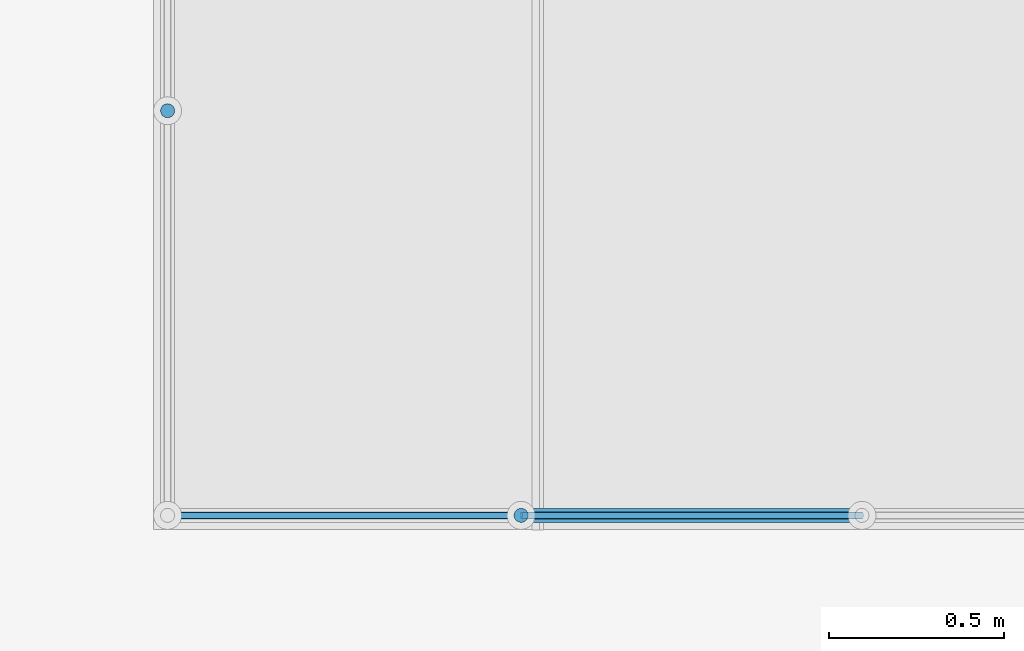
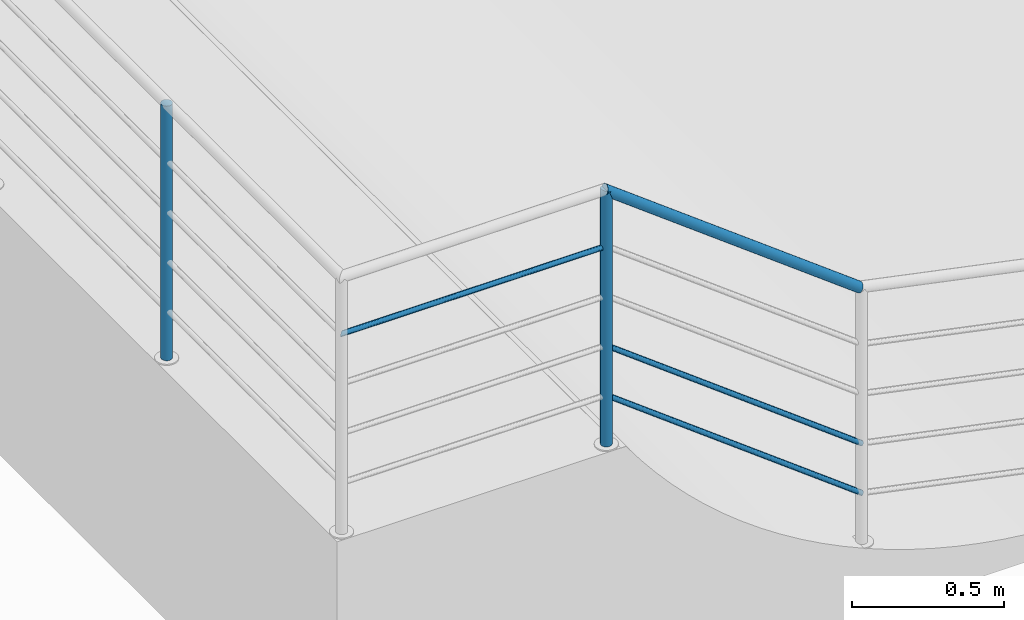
# One storey, part 28 of 237: 6 building element parts, 1 element without a shape of its own.
"""IFC2X3 building model written with IfcOpenShell, lengths in millimetres."""

from ifc_helpers import new_model, entity, si_unit, converted_unit, derived_unit, money_unit, direction, frame, origin_with_axes, place, context, subcontext, project, spatial, faceted_brep, material, type_object, element, aggregate, save


model = new_model("IFC2X3")

# Units and contexts
model_context = context("Model", 3, precision=0.01, world=origin_with_axes(), true_north=direction((0.0, 1.0)))
body_context = subcontext(model_context, "Body", "Model", "MODEL_VIEW")
ifc_project = project(units=[si_unit("LENGTHUNIT", "METRE", prefix="MILLI"), si_unit("AREAUNIT", "SQUARE_METRE"), si_unit("VOLUMEUNIT", "CUBIC_METRE"), converted_unit("PLANEANGLEUNIT", "DEGREE", entity("IfcPlaneAngleMeasure", 0.0174532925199), si_unit("PLANEANGLEUNIT", "RADIAN"), dimensions=[0, 0, 0, 0, 0, 0, 0]), money_unit("USD"), converted_unit("TIMEUNIT", "Year", entity("IfcTimeMeasure", 31556926.0), si_unit("TIMEUNIT", "SECOND"), dimensions=[0, 0, 1, 0, 0, 0, 0]), si_unit("MASSUNIT", "GRAM", prefix="KILO"), si_unit("THERMODYNAMICTEMPERATUREUNIT", "DEGREE_CELSIUS"), si_unit("LUMINOUSINTENSITYUNIT", "LUMEN"), si_unit("ENERGYUNIT", "JOULE", prefix="MEGA"), derived_unit("THERMALCONDUCTANCEUNIT", [(si_unit("POWERUNIT", "WATT"), 1), (si_unit("LENGTHUNIT", "METRE"), -1), (si_unit("THERMODYNAMICTEMPERATUREUNIT", "KELVIN"), -1)]), derived_unit("SPECIFICHEATCAPACITYUNIT", [(si_unit("ENERGYUNIT", "JOULE"), 1), (si_unit("MASSUNIT", "GRAM", prefix="KILO"), -1), (si_unit("THERMODYNAMICTEMPERATUREUNIT", "KELVIN"), -1)]), derived_unit("MASSDENSITYUNIT", [(si_unit("MASSUNIT", "GRAM", prefix="KILO"), 1), (si_unit("VOLUMEUNIT", "CUBIC_METRE"), -1)])], contexts=[model_context])

# Site, building, storey
site_placement = place(None, origin_with_axes())
site = spatial("IfcSite", under=ifc_project, at=site_placement, Name="Local", CompositionType="ELEMENT")
building_placement = place(site_placement, origin_with_axes())
building = spatial("IfcBuilding", under=site, at=building_placement, Name="Construção", CompositionType="ELEMENT")
storey_placement = place(building_placement, origin_with_axes())
storey = spatial("IfcBuildingStorey", under=building, at=storey_placement, Name="Pavimento Térreo", CompositionType="ELEMENT", Elevation=0.0)

# Railing, building element parts
railing_type = type_object("IfcRailingType", Name="Tipo de Guarda-Corpo", PredefinedType="NOTDEFINED")
railing_placement = place(storey_placement, frame((53912.4440926, 33356.4497128, -1263.04952679), z_axis=(0.0, 0.0, 1.0), x_axis=(1.0, 0.0, 0.0)))
railing = element("IfcRailing", 1, at=railing_placement, inside=storey, type_object=railing_type, Name="Guarda-Corpo - 001", PredefinedType="NOTDEFINED")
ifc_material = material(Name="Aço - Inoxidável")
building_element_part_1_placement = place(railing_placement, origin_with_axes())
building_element_part_1 = element("IfcBuildingElementPart", 2, at=building_element_part_1_placement, material=ifc_material, Name="Aço - Inoxidável", context=body_context, shape_type="Brep", body=[
    faceted_brep([(-1805.24406084, -5291.20961394, 910.941330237), (-1801.77109729, -5291.51345888, 910.941330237), (-1801.77109729, -5291.51345888, 1935.94133024), (-1805.24406084, -5291.20961394, 1937.10492348), (-1798.29813374, -5291.20961394, 910.941330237), (-1808.61150016, -5290.30731129, 910.941330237), (-1811.77109729, -5288.83396695, 910.941330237), (-1814.62684948, -5286.83434774, 910.941330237), (-1817.09198615, -5284.36921107, 910.941330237), (-1819.09160537, -5281.51345888, 910.941330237), (-1820.56494971, -5278.35386174, 910.941330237), (-1821.46725235, -5274.98642243, 910.941330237), (-1821.77109729, -5271.51345888, 910.941330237), (-1821.46725235, -5268.04049532, 910.941330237), (-1820.56494971, -5264.67305601, 910.941330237), (-1819.09160537, -5261.51345888, 910.941330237), (-1817.09198615, -5258.65770668, 910.941330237), (-1814.62684948, -5256.19257001, 910.941330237), (-1811.77109729, -5254.1929508, 910.941330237), (-1808.61150016, -5252.71960646, 910.941330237), (-1805.24406084, -5251.81730382, 910.941330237), (-1801.77109729, -5251.51345888, 910.941330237), (-1798.29813374, -5251.81730382, 910.941330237), (-1794.93069442, -5252.71960646, 910.941330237), (-1791.77109729, -5254.1929508, 910.941330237), (-1788.9153451, -5256.19257001, 910.941330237), (-1786.45020843, -5258.65770668, 910.941330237), (-1784.45058922, -5261.51345888, 910.941330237), (-1782.97724488, -5264.67305601, 910.941330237), (-1782.07494223, -5268.04049532, 910.941330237), (-1781.77109729, -5271.51345888, 910.941330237), (-1782.07494223, -5274.98642243, 910.941330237), (-1782.97724488, -5278.35386174, 910.941330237), (-1784.45058922, -5281.51345888, 910.941330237), (-1786.45020843, -5284.36921107, 910.941330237), (-1788.9153451, -5286.83434774, 910.941330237), (-1791.77109729, -5288.83396695, 910.941330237), (-1794.93069442, -5290.30731129, 910.941330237), (-1798.29813374, -5291.20961394, 1934.77773699), (-1821.46725235, -5268.04049532, 1942.54039545), (-1821.77109729, -5271.51345888, 1942.64219667), (-1821.46725235, -5274.98642243, 1942.54039545), (-1820.56494971, -5278.35386174, 1942.23808497), (-1819.09160537, -5281.51345888, 1941.74445079), (-1817.09198615, -5284.36921107, 1941.07449173), (-1814.62684948, -5286.83434774, 1940.24856415), (-1811.77109729, -5288.83396695, 1939.29176345), (-1808.61150016, -5290.30731129, 1938.23316153), (-1794.93069442, -5290.30731129, 1933.64949894), (-1791.77109729, -5288.83396695, 1932.59089702), (-1788.9153451, -5286.83434774, 1931.63409632), (-1786.45020843, -5284.36921107, 1930.80816874), (-1784.45058922, -5281.51345888, 1930.13820968), (-1782.97724488, -5278.35386174, 1929.6445755), (-1782.07494223, -5274.98642243, 1929.34226502), (-1781.77109729, -5271.51345888, 1929.24046381), (-1782.07494223, -5268.04049532, 1929.34226502), (-1782.97724488, -5264.67305601, 1929.6445755), (-1784.45058922, -5261.51345888, 1930.13820968), (-1786.45020843, -5258.65770668, 1930.80816874), (-1788.9153451, -5256.19257001, 1931.63409632), (-1791.77109729, -5254.1929508, 1932.59089702), (-1794.93069442, -5252.71960646, 1933.64949894), (-1798.29813374, -5251.81730382, 1934.77773699), (-1801.77109729, -5251.51345888, 1935.94133024), (-1805.24406084, -5251.81730382, 1937.10492348), (-1808.61150016, -5252.71960646, 1938.23316153), (-1811.77109729, -5254.1929508, 1939.29176345), (-1814.62684948, -5256.19257001, 1940.24856415), (-1817.09198615, -5258.65770668, 1941.07449173), (-1819.09160537, -5261.51345888, 1941.74445079), (-1820.56494971, -5264.67305601, 1942.23808497)], [[[0, 1, 2, 3]], [[4, 1, 0, 5, 6, 7, 8, 9, 10, 11, 12, 13, 14, 15, 16, 17, 18, 19, 20, 21, 22, 23, 24, 25, 26, 27, 28, 29, 30, 31, 32, 33, 34, 35, 36, 37]], [[1, 4, 38, 2]], [[39, 40, 41, 42, 43, 44, 45, 46, 47, 3, 2, 38, 48, 49, 50, 51, 52, 53, 54, 55, 56, 57, 58, 59, 60, 61, 62, 63, 64, 65, 66, 67, 68, 69, 70, 71]], [[5, 0, 3, 47]], [[6, 5, 47, 46]], [[7, 6, 46, 45]], [[8, 7, 45, 44]], [[9, 8, 44, 43]], [[10, 9, 43, 42]], [[11, 10, 42, 41]], [[12, 11, 41, 40]], [[13, 12, 40, 39]], [[14, 13, 39, 71]], [[15, 14, 71, 70]], [[16, 15, 70, 69]], [[17, 16, 69, 68]], [[18, 17, 68, 67]], [[19, 18, 67, 66]], [[20, 19, 66, 65]], [[21, 20, 65, 64]], [[22, 21, 64, 63]], [[23, 22, 63, 62]], [[24, 23, 62, 61]], [[25, 24, 61, 60]], [[26, 25, 60, 59]], [[27, 26, 59, 58]], [[28, 27, 58, 57]], [[29, 28, 57, 56]], [[30, 29, 56, 55]], [[31, 30, 55, 54]], [[32, 31, 54, 53]], [[33, 32, 53, 52]], [[34, 33, 52, 51]], [[35, 34, 51, 50]], [[36, 35, 50, 49]], [[37, 36, 49, 48]], [[4, 37, 48, 38]]]),
])
building_element_part_2_placement = place(railing_placement, origin_with_axes())
building_element_part_2 = element("IfcBuildingElementPart", 3, at=building_element_part_2_placement, material=ifc_material, Name="Aço - Inoxidável", context=body_context, shape_type="Brep", body=[
    faceted_brep([(-2829.69615506, -4114.04632629, 910.941330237), (-2830.0, -4117.51928985, 910.941330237), (-2830.0, -4117.51928985, 1935.94133024), (-2829.69615506, -4114.04632629, 1935.94133024), (-2829.69615506, -4120.9922534, 910.941330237), (-2828.79385242, -4110.67888698, 910.941330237), (-2827.32050808, -4107.51928985, 910.941330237), (-2825.32088886, -4104.66353765, 910.941330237), (-2822.85575219, -4102.19840098, 910.941330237), (-2820.0, -4100.19878177, 910.941330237), (-2816.84040287, -4098.72543743, 910.941330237), (-2813.47296355, -4097.82313479, 910.941330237), (-2810.0, -4097.51928985, 910.941330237), (-2806.52703645, -4097.82313479, 910.941330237), (-2803.15959713, -4098.72543743, 910.941330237), (-2800.0, -4100.19878177, 910.941330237), (-2797.14424781, -4102.19840098, 910.941330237), (-2794.67911114, -4104.66353765, 910.941330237), (-2792.67949192, -4107.51928985, 910.941330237), (-2791.20614758, -4110.67888698, 910.941330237), (-2790.30384494, -4114.04632629, 910.941330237), (-2790.0, -4117.51928985, 910.941330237), (-2790.30384494, -4120.9922534, 910.941330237), (-2791.20614758, -4124.35969271, 910.941330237), (-2792.67949192, -4127.51928985, 910.941330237), (-2794.67911114, -4130.37504204, 910.941330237), (-2797.14424781, -4132.84017871, 910.941330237), (-2800.0, -4134.83979792, 910.941330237), (-2803.15959713, -4136.31314226, 910.941330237), (-2806.52703645, -4137.21544491, 910.941330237), (-2810.0, -4137.51928985, 910.941330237), (-2813.47296355, -4137.21544491, 910.941330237), (-2816.84040287, -4136.31314226, 910.941330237), (-2820.0, -4134.83979792, 910.941330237), (-2822.85575219, -4132.84017871, 910.941330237), (-2825.32088886, -4130.37504204, 910.941330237), (-2827.32050808, -4127.51928985, 910.941330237), (-2828.79385242, -4124.35969271, 910.941330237), (-2829.69615506, -4120.9922534, 1935.94133024), (-2806.52703645, -4097.82313479, 1935.94133024), (-2810.0, -4097.51928985, 1935.94133024), (-2813.47296355, -4097.82313479, 1935.94133024), (-2816.84040287, -4098.72543743, 1935.94133024), (-2820.0, -4100.19878177, 1935.94133024), (-2822.85575219, -4102.19840098, 1935.94133024), (-2825.32088886, -4104.66353765, 1935.94133024), (-2827.32050808, -4107.51928985, 1935.94133024), (-2828.79385242, -4110.67888698, 1935.94133024), (-2828.79385242, -4124.35969271, 1935.94133024), (-2827.32050808, -4127.51928985, 1935.94133024), (-2825.32088886, -4130.37504204, 1935.94133024), (-2822.85575219, -4132.84017871, 1935.94133024), (-2820.0, -4134.83979792, 1935.94133024), (-2816.84040287, -4136.31314226, 1935.94133024), (-2813.47296355, -4137.21544491, 1935.94133024), (-2810.0, -4137.51928985, 1935.94133024), (-2806.52703645, -4137.21544491, 1935.94133024), (-2803.15959713, -4136.31314226, 1935.94133024), (-2800.0, -4134.83979792, 1935.94133024), (-2797.14424781, -4132.84017871, 1935.94133024), (-2794.67911114, -4130.37504204, 1935.94133024), (-2792.67949192, -4127.51928985, 1935.94133024), (-2791.20614758, -4124.35969271, 1935.94133024), (-2790.30384494, -4120.9922534, 1935.94133024), (-2790.0, -4117.51928985, 1935.94133024), (-2790.30384494, -4114.04632629, 1935.94133024), (-2791.20614758, -4110.67888698, 1935.94133024), (-2792.67949192, -4107.51928985, 1935.94133024), (-2794.67911114, -4104.66353765, 1935.94133024), (-2797.14424781, -4102.19840098, 1935.94133024), (-2800.0, -4100.19878177, 1935.94133024), (-2803.15959713, -4098.72543743, 1935.94133024)], [[[0, 1, 2, 3]], [[4, 1, 0, 5, 6, 7, 8, 9, 10, 11, 12, 13, 14, 15, 16, 17, 18, 19, 20, 21, 22, 23, 24, 25, 26, 27, 28, 29, 30, 31, 32, 33, 34, 35, 36, 37]], [[1, 4, 38, 2]], [[39, 40, 41, 42, 43, 44, 45, 46, 47, 3, 2, 38, 48, 49, 50, 51, 52, 53, 54, 55, 56, 57, 58, 59, 60, 61, 62, 63, 64, 65, 66, 67, 68, 69, 70, 71]], [[5, 0, 3, 47]], [[6, 5, 47, 46]], [[7, 6, 46, 45]], [[8, 7, 45, 44]], [[9, 8, 44, 43]], [[10, 9, 43, 42]], [[11, 10, 42, 41]], [[12, 11, 41, 40]], [[13, 12, 40, 39]], [[14, 13, 39, 71]], [[15, 14, 71, 70]], [[16, 15, 70, 69]], [[17, 16, 69, 68]], [[18, 17, 68, 67]], [[19, 18, 67, 66]], [[20, 19, 66, 65]], [[21, 20, 65, 64]], [[22, 21, 64, 63]], [[23, 22, 63, 62]], [[24, 23, 62, 61]], [[25, 24, 61, 60]], [[26, 25, 60, 59]], [[27, 26, 59, 58]], [[28, 27, 58, 57]], [[29, 28, 57, 56]], [[30, 29, 56, 55]], [[31, 30, 55, 54]], [[32, 31, 54, 53]], [[33, 32, 53, 52]], [[34, 33, 52, 51]], [[35, 34, 51, 50]], [[36, 35, 50, 49]], [[37, 36, 49, 48]], [[4, 37, 48, 38]]]),
])
building_element_part_3_placement = place(railing_placement, origin_with_axes())
building_element_part_3 = element("IfcBuildingElementPart", 4, at=building_element_part_3_placement, material=ifc_material, Name="Aço - Inoxidável", context=body_context, shape_type="Brep", body=[
    faceted_brep([(-2800.0, -5261.51345888, 1705.94133024), (-2800.15192247, -5261.66538135, 1707.67781201), (-1801.18930067, -5261.66538135, 1707.67781201), (-1801.77109729, -5261.51345888, 1705.94133024), (-2800.15192247, -5261.66538135, 1704.20484846), (-2800.60307379, -5262.11653267, 1702.5211288), (-2801.33974596, -5262.85320484, 1700.94133024), (-2802.33955557, -5263.85301445, 1699.51345414), (-2803.5721239, -5265.08558278, 1698.28088581), (-2805.0, -5266.51345888, 1697.2810762), (-2806.57979857, -5268.09325744, 1696.54440403), (-2808.26351822, -5269.7769771, 1696.09325271), (-2810.0, -5271.51345888, 1695.94133024), (-2811.73648178, -5273.24994065, 1696.09325271), (-2813.42020143, -5274.93366031, 1696.54440403), (-2815.0, -5276.51345888, 1697.2810762), (-2816.4278761, -5277.94133497, 1698.28088581), (-2817.66044443, -5279.17390331, 1699.51345414), (-2818.66025404, -5280.17371292, 1700.94133024), (-2819.39692621, -5280.91038509, 1702.5211288), (-2819.84807753, -5281.36153641, 1704.20484846), (-2820.0, -5281.51345888, 1705.94133024), (-2819.84807753, -5281.36153641, 1707.67781201), (-2819.39692621, -5280.91038509, 1709.36153167), (-2818.66025404, -5280.17371292, 1710.94133024), (-2817.66044443, -5279.17390331, 1712.36920633), (-2816.4278761, -5277.94133497, 1713.60177467), (-2815.0, -5276.51345888, 1714.60158427), (-2813.42020143, -5274.93366031, 1715.33825644), (-2811.73648178, -5273.24994065, 1715.78940777), (-2810.0, -5271.51345888, 1715.94133024), (-2808.26351822, -5269.7769771, 1715.78940777), (-2806.57979857, -5268.09325744, 1715.33825644), (-2805.0, -5266.51345888, 1714.60158427), (-2803.5721239, -5265.08558278, 1713.60177467), (-2802.33955557, -5263.85301445, 1712.36920633), (-2801.33974596, -5262.85320484, 1710.94133024), (-2800.60307379, -5262.11653267, 1709.36153167), (-1800.62518164, -5262.11653267, 1709.36153167), (-1800.09588068, -5262.85320484, 1710.94133024), (-1799.61748033, -5263.85301445, 1712.36920633), (-1799.20451654, -5265.08558278, 1713.60177467), (-1798.86953701, -5266.51345888, 1714.60158427), (-1798.62271992, -5268.09325744, 1715.33825644), (-1798.47156468, -5269.7769771, 1715.78940777), (-1798.42066408, -5271.51345888, 1715.94133024), (-1798.47156468, -5273.24994065, 1715.78940777), (-1798.62271992, -5274.93366031, 1715.33825644), (-1798.86953701, -5276.51345888, 1714.60158427), (-1799.20451654, -5277.94133497, 1713.60177467), (-1799.61748033, -5279.17390331, 1712.36920633), (-1800.09588068, -5280.17371292, 1710.94133024), (-1800.62518164, -5280.91038509, 1709.36153167), (-1801.18930067, -5281.36153641, 1707.67781201), (-1801.77109729, -5281.51345888, 1705.94133024), (-1802.35289391, -5281.36153641, 1704.20484846), (-1802.91701294, -5280.91038509, 1702.5211288), (-1803.4463139, -5280.17371292, 1700.94133024), (-1803.92471425, -5279.17390331, 1699.51345414), (-1804.33767804, -5277.94133497, 1698.28088581), (-1804.67265757, -5276.51345888, 1697.2810762), (-1804.91947466, -5274.93366031, 1696.54440403), (-1805.0706299, -5273.24994065, 1696.09325271), (-1805.12153051, -5271.51345888, 1695.94133024), (-1805.0706299, -5269.7769771, 1696.09325271), (-1804.91947466, -5268.09325744, 1696.54440403), (-1804.67265757, -5266.51345888, 1697.2810762), (-1804.33767804, -5265.08558278, 1698.28088581), (-1803.92471425, -5263.85301445, 1699.51345414), (-1803.4463139, -5262.85320484, 1700.94133024), (-1802.91701294, -5262.11653267, 1702.5211288), (-1802.35289391, -5261.66538135, 1704.20484846)], [[[0, 1, 2, 3]], [[0, 4, 5, 6, 7, 8, 9, 10, 11, 12, 13, 14, 15, 16, 17, 18, 19, 20, 21, 22, 23, 24, 25, 26, 27, 28, 29, 30, 31, 32, 33, 34, 35, 36, 37, 1]], [[1, 37, 38, 2]], [[3, 2, 38, 39, 40, 41, 42, 43, 44, 45, 46, 47, 48, 49, 50, 51, 52, 53, 54, 55, 56, 57, 58, 59, 60, 61, 62, 63, 64, 65, 66, 67, 68, 69, 70, 71]], [[4, 0, 3, 71]], [[5, 4, 71, 70]], [[6, 5, 70, 69]], [[7, 6, 69, 68]], [[8, 7, 68, 67]], [[9, 8, 67, 66]], [[10, 9, 66, 65]], [[11, 10, 65, 64]], [[12, 11, 64, 63]], [[13, 12, 63, 62]], [[14, 13, 62, 61]], [[15, 14, 61, 60]], [[16, 15, 60, 59]], [[17, 16, 59, 58]], [[18, 17, 58, 57]], [[19, 18, 57, 56]], [[20, 19, 56, 55]], [[21, 20, 55, 54]], [[22, 21, 54, 53]], [[23, 22, 53, 52]], [[24, 23, 52, 51]], [[25, 24, 51, 50]], [[26, 25, 50, 49]], [[27, 26, 49, 48]], [[28, 27, 48, 47]], [[29, 28, 47, 46]], [[30, 29, 46, 45]], [[31, 30, 45, 44]], [[32, 31, 44, 43]], [[33, 32, 43, 42]], [[34, 33, 42, 41]], [[35, 34, 41, 40]], [[36, 35, 40, 39]], [[37, 36, 39, 38]]]),
])
building_element_part_4_placement = place(railing_placement, origin_with_axes())
building_element_part_4 = element("IfcBuildingElementPart", 5, at=building_element_part_4_placement, material=ifc_material, Name="Aço - Inoxidável", context=body_context, shape_type="Brep", body=[
    faceted_brep([(-1808.47196372, -5251.51345888, 1935.94133024), (-1807.30837048, -5251.81730382, 1939.41429379), (-836.664998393, -5251.81730382, 1206.75520132), (-838.134613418, -5251.51345888, 1203.51322851), (-1809.63555697, -5251.81730382, 1932.46836668), (-1810.76379502, -5252.71960646, 1929.10092737), (-1811.82239694, -5254.1929508, 1925.94133024), (-1812.77919764, -5256.19257001, 1923.08557804), (-1813.60512521, -5258.65770668, 1920.62044137), (-1814.27508428, -5261.51345888, 1918.62082216), (-1814.76871846, -5264.67305601, 1917.14747782), (-1815.07102893, -5268.04049532, 1916.24517518), (-1815.17283015, -5271.51345888, 1915.94133024), (-1815.07102893, -5274.98642243, 1916.24517518), (-1814.76871846, -5278.35386174, 1917.14747782), (-1814.27508428, -5281.51345888, 1918.62082216), (-1813.60512521, -5284.36921107, 1920.62044137), (-1812.77919764, -5286.83434774, 1923.08557804), (-1811.82239694, -5288.83396695, 1925.94133024), (-1810.76379502, -5290.30731129, 1929.10092737), (-1809.63555697, -5291.20961394, 1932.46836668), (-1808.47196372, -5291.51345888, 1935.94133024), (-1807.30837048, -5291.20961394, 1939.41429379), (-1806.18013242, -5290.30731129, 1942.7817331), (-1805.12153051, -5288.83396695, 1945.94133024), (-1804.16472981, -5286.83434774, 1948.79708243), (-1803.33880223, -5284.36921107, 1951.2622191), (-1802.66884317, -5281.51345888, 1953.26183831), (-1802.17520898, -5278.35386174, 1954.73518265), (-1801.87289851, -5274.98642243, 1955.6374853), (-1801.77109729, -5271.51345888, 1955.94133024), (-1801.87289851, -5268.04049532, 1955.6374853), (-1802.17520898, -5264.67305601, 1954.73518265), (-1802.66884317, -5261.51345888, 1953.26183831), (-1803.33880223, -5258.65770668, 1951.2622191), (-1804.16472981, -5256.19257001, 1948.79708243), (-1805.12153051, -5254.1929508, 1945.94133024), (-1806.18013242, -5252.71960646, 1942.7817331), (-835.240036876, -5252.71960646, 1209.89866842), (-833.903025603, -5254.1929508, 1212.84811716), (-832.694588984, -5256.19257001, 1215.51393003), (-831.651444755, -5258.65770668, 1217.81510766), (-830.805288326, -5261.51345888, 1219.68172993), (-830.18182973, -5264.67305601, 1221.05708046), (-829.800012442, -5268.04049532, 1221.89936993), (-829.671437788, -5271.51345888, 1222.1830058), (-829.800012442, -5274.98642243, 1221.89936993), (-830.18182973, -5278.35386174, 1221.05708046), (-830.805288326, -5281.51345888, 1219.68172993), (-831.651444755, -5284.36921107, 1217.81510766), (-832.694588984, -5286.83434774, 1215.51393003), (-833.903025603, -5288.83396695, 1212.84811716), (-835.240036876, -5290.30731129, 1209.89866842), (-836.664998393, -5291.20961394, 1206.75520132), (-838.134613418, -5291.51345888, 1203.51322851), (-839.604228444, -5291.20961394, 1200.27125571), (-841.029189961, -5290.30731129, 1197.12778861), (-842.366201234, -5288.83396695, 1194.17833987), (-843.574637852, -5286.83434774, 1191.512527), (-844.617782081, -5284.36921107, 1189.21134937), (-845.463938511, -5281.51345888, 1187.3447271), (-846.087397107, -5278.35386174, 1185.96937657), (-846.469214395, -5274.98642243, 1185.12708709), (-846.597789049, -5271.51345888, 1184.84345123), (-846.469214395, -5268.04049532, 1185.12708709), (-846.087397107, -5264.67305601, 1185.96937657), (-845.463938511, -5261.51345888, 1187.3447271), (-844.617782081, -5258.65770668, 1189.21134937), (-843.574637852, -5256.19257001, 1191.512527), (-842.366201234, -5254.1929508, 1194.17833987), (-841.029189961, -5252.71960646, 1197.12778861), (-839.604228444, -5251.81730382, 1200.27125571)], [[[0, 1, 2, 3]], [[0, 4, 5, 6, 7, 8, 9, 10, 11, 12, 13, 14, 15, 16, 17, 18, 19, 20, 21, 22, 23, 24, 25, 26, 27, 28, 29, 30, 31, 32, 33, 34, 35, 36, 37, 1]], [[1, 37, 38, 2]], [[3, 2, 38, 39, 40, 41, 42, 43, 44, 45, 46, 47, 48, 49, 50, 51, 52, 53, 54, 55, 56, 57, 58, 59, 60, 61, 62, 63, 64, 65, 66, 67, 68, 69, 70, 71]], [[4, 0, 3, 71]], [[5, 4, 71, 70]], [[6, 5, 70, 69]], [[7, 6, 69, 68]], [[8, 7, 68, 67]], [[9, 8, 67, 66]], [[10, 9, 66, 65]], [[11, 10, 65, 64]], [[12, 11, 64, 63]], [[13, 12, 63, 62]], [[14, 13, 62, 61]], [[15, 14, 61, 60]], [[16, 15, 60, 59]], [[17, 16, 59, 58]], [[18, 17, 58, 57]], [[19, 18, 57, 56]], [[20, 19, 56, 55]], [[21, 20, 55, 54]], [[22, 21, 54, 53]], [[23, 22, 53, 52]], [[24, 23, 52, 51]], [[25, 24, 51, 50]], [[26, 25, 50, 49]], [[27, 26, 49, 48]], [[28, 27, 48, 47]], [[29, 28, 47, 46]], [[30, 29, 46, 45]], [[31, 30, 45, 44]], [[32, 31, 44, 43]], [[33, 32, 43, 42]], [[34, 33, 42, 41]], [[35, 34, 41, 40]], [[36, 35, 40, 39]], [[37, 36, 39, 38]]]),
])
building_element_part_5_placement = place(railing_placement, origin_with_axes())
building_element_part_5 = element("IfcBuildingElementPart", 6, at=building_element_part_5_placement, material=ifc_material, Name="Aço - Inoxidável", context=body_context, shape_type="Brep", body=[
    faceted_brep([(-1801.77109729, -5261.51345888, 1105.94133024), (-1801.18930067, -5261.66538135, 1107.67781201), (-828.936630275, -5261.66538135, 373.803992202), (-829.671437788, -5261.51345888, 372.183005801), (-1802.35289391, -5261.66538135, 1104.20484846), (-1802.91701294, -5262.11653267, 1102.5211288), (-1803.4463139, -5262.85320484, 1100.94133024), (-1803.92471425, -5263.85301445, 1099.51345414), (-1804.33767804, -5265.08558278, 1098.28088581), (-1804.67265757, -5266.51345888, 1097.2810762), (-1804.91947466, -5268.09325744, 1096.54440403), (-1805.0706299, -5269.7769771, 1096.09325271), (-1805.12153051, -5271.51345888, 1095.94133024), (-1805.0706299, -5273.24994065, 1096.09325271), (-1804.91947466, -5274.93366031, 1096.54440403), (-1804.67265757, -5276.51345888, 1097.2810762), (-1804.33767804, -5277.94133497, 1098.28088581), (-1803.92471425, -5279.17390331, 1099.51345414), (-1803.4463139, -5280.17371292, 1100.94133024), (-1802.91701294, -5280.91038509, 1102.5211288), (-1802.35289391, -5281.36153641, 1104.20484846), (-1801.77109729, -5281.51345888, 1105.94133024), (-1801.18930067, -5281.36153641, 1107.67781201), (-1800.62518164, -5280.91038509, 1109.36153167), (-1800.09588068, -5280.17371292, 1110.94133024), (-1799.61748033, -5279.17390331, 1112.36920633), (-1799.20451654, -5277.94133497, 1113.60177467), (-1798.86953701, -5276.51345888, 1114.60158427), (-1798.62271992, -5274.93366031, 1115.33825644), (-1798.47156468, -5273.24994065, 1115.78940777), (-1798.42066408, -5271.51345888, 1115.94133024), (-1798.47156468, -5269.7769771, 1115.78940777), (-1798.62271992, -5268.09325744, 1115.33825644), (-1798.86953701, -5266.51345888, 1114.60158427), (-1799.20451654, -5265.08558278, 1113.60177467), (-1799.61748033, -5263.85301445, 1112.36920633), (-1800.09588068, -5262.85320484, 1110.94133024), (-1800.62518164, -5262.11653267, 1109.36153167), (-828.224149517, -5262.11653267, 375.375725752), (-827.55564388, -5262.85320484, 376.850450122), (-826.951425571, -5263.85301445, 378.183356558), (-826.429853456, -5265.08558278, 379.333945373), (-826.006775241, -5266.51345888, 380.267256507), (-825.695045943, -5268.09325744, 380.954931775), (-825.5041373, -5269.7769771, 381.37607651), (-825.439849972, -5271.51345888, 381.517894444), (-825.5041373, -5273.24994065, 381.37607651), (-825.695045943, -5274.93366031, 380.954931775), (-826.006775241, -5276.51345888, 380.267256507), (-826.429853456, -5277.94133497, 379.333945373), (-826.951425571, -5279.17390331, 378.183356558), (-827.55564388, -5280.17371292, 376.850450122), (-828.224149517, -5280.91038509, 375.375725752), (-828.936630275, -5281.36153641, 373.803992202), (-829.671437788, -5281.51345888, 372.183005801), (-830.406245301, -5281.36153641, 370.562019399), (-831.118726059, -5280.91038509, 368.990285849), (-831.787231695, -5280.17371292, 367.515561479), (-832.391450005, -5279.17390331, 366.182655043), (-832.913022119, -5277.94133497, 365.032066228), (-833.336100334, -5276.51345888, 364.098755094), (-833.647829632, -5274.93366031, 363.411079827), (-833.838738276, -5273.24994065, 362.989935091), (-833.903025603, -5271.51345888, 362.848117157), (-833.838738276, -5269.7769771, 362.989935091), (-833.647829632, -5268.09325744, 363.411079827), (-833.336100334, -5266.51345888, 364.098755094), (-832.913022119, -5265.08558278, 365.032066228), (-832.391450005, -5263.85301445, 366.182655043), (-831.787231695, -5262.85320484, 367.515561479), (-831.118726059, -5262.11653267, 368.990285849), (-830.406245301, -5261.66538135, 370.562019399)], [[[0, 1, 2, 3]], [[0, 4, 5, 6, 7, 8, 9, 10, 11, 12, 13, 14, 15, 16, 17, 18, 19, 20, 21, 22, 23, 24, 25, 26, 27, 28, 29, 30, 31, 32, 33, 34, 35, 36, 37, 1]], [[1, 37, 38, 2]], [[3, 2, 38, 39, 40, 41, 42, 43, 44, 45, 46, 47, 48, 49, 50, 51, 52, 53, 54, 55, 56, 57, 58, 59, 60, 61, 62, 63, 64, 65, 66, 67, 68, 69, 70, 71]], [[4, 0, 3, 71]], [[5, 4, 71, 70]], [[6, 5, 70, 69]], [[7, 6, 69, 68]], [[8, 7, 68, 67]], [[9, 8, 67, 66]], [[10, 9, 66, 65]], [[11, 10, 65, 64]], [[12, 11, 64, 63]], [[13, 12, 63, 62]], [[14, 13, 62, 61]], [[15, 14, 61, 60]], [[16, 15, 60, 59]], [[17, 16, 59, 58]], [[18, 17, 58, 57]], [[19, 18, 57, 56]], [[20, 19, 56, 55]], [[21, 20, 55, 54]], [[22, 21, 54, 53]], [[23, 22, 53, 52]], [[24, 23, 52, 51]], [[25, 24, 51, 50]], [[26, 25, 50, 49]], [[27, 26, 49, 48]], [[28, 27, 48, 47]], [[29, 28, 47, 46]], [[30, 29, 46, 45]], [[31, 30, 45, 44]], [[32, 31, 44, 43]], [[33, 32, 43, 42]], [[34, 33, 42, 41]], [[35, 34, 41, 40]], [[36, 35, 40, 39]], [[37, 36, 39, 38]]]),
])
building_element_part_6_placement = place(railing_placement, origin_with_axes())
building_element_part_6 = element("IfcBuildingElementPart", 7, at=building_element_part_6_placement, material=ifc_material, Name="Aço - Inoxidável", context=body_context, shape_type="Brep", body=[
    faceted_brep([(-1801.77109729, -5261.51345888, 1305.94133024), (-1801.18930067, -5261.66538135, 1307.67781201), (-828.936630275, -5261.66538135, 573.803992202), (-829.671437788, -5261.51345888, 572.183005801), (-1802.35289391, -5261.66538135, 1304.20484846), (-1802.91701294, -5262.11653267, 1302.5211288), (-1803.4463139, -5262.85320484, 1300.94133024), (-1803.92471425, -5263.85301445, 1299.51345414), (-1804.33767804, -5265.08558278, 1298.28088581), (-1804.67265757, -5266.51345888, 1297.2810762), (-1804.91947466, -5268.09325744, 1296.54440403), (-1805.0706299, -5269.7769771, 1296.09325271), (-1805.12153051, -5271.51345888, 1295.94133024), (-1805.0706299, -5273.24994065, 1296.09325271), (-1804.91947466, -5274.93366031, 1296.54440403), (-1804.67265757, -5276.51345888, 1297.2810762), (-1804.33767804, -5277.94133497, 1298.28088581), (-1803.92471425, -5279.17390331, 1299.51345414), (-1803.4463139, -5280.17371292, 1300.94133024), (-1802.91701294, -5280.91038509, 1302.5211288), (-1802.35289391, -5281.36153641, 1304.20484846), (-1801.77109729, -5281.51345888, 1305.94133024), (-1801.18930067, -5281.36153641, 1307.67781201), (-1800.62518164, -5280.91038509, 1309.36153167), (-1800.09588068, -5280.17371292, 1310.94133024), (-1799.61748033, -5279.17390331, 1312.36920633), (-1799.20451654, -5277.94133497, 1313.60177467), (-1798.86953701, -5276.51345888, 1314.60158427), (-1798.62271992, -5274.93366031, 1315.33825644), (-1798.47156468, -5273.24994065, 1315.78940777), (-1798.42066408, -5271.51345888, 1315.94133024), (-1798.47156468, -5269.7769771, 1315.78940777), (-1798.62271992, -5268.09325744, 1315.33825644), (-1798.86953701, -5266.51345888, 1314.60158427), (-1799.20451654, -5265.08558278, 1313.60177467), (-1799.61748033, -5263.85301445, 1312.36920633), (-1800.09588068, -5262.85320484, 1310.94133024), (-1800.62518164, -5262.11653267, 1309.36153167), (-828.224149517, -5262.11653267, 575.375725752), (-827.55564388, -5262.85320484, 576.850450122), (-826.951425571, -5263.85301445, 578.183356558), (-826.429853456, -5265.08558278, 579.333945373), (-826.006775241, -5266.51345888, 580.267256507), (-825.695045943, -5268.09325744, 580.954931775), (-825.5041373, -5269.7769771, 581.37607651), (-825.439849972, -5271.51345888, 581.517894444), (-825.5041373, -5273.24994065, 581.37607651), (-825.695045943, -5274.93366031, 580.954931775), (-826.006775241, -5276.51345888, 580.267256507), (-826.429853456, -5277.94133497, 579.333945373), (-826.951425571, -5279.17390331, 578.183356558), (-827.55564388, -5280.17371292, 576.850450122), (-828.224149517, -5280.91038509, 575.375725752), (-828.936630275, -5281.36153641, 573.803992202), (-829.671437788, -5281.51345888, 572.183005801), (-830.406245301, -5281.36153641, 570.562019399), (-831.118726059, -5280.91038509, 568.990285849), (-831.787231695, -5280.17371292, 567.515561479), (-832.391450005, -5279.17390331, 566.182655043), (-832.913022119, -5277.94133497, 565.032066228), (-833.336100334, -5276.51345888, 564.098755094), (-833.647829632, -5274.93366031, 563.411079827), (-833.838738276, -5273.24994065, 562.989935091), (-833.903025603, -5271.51345888, 562.848117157), (-833.838738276, -5269.7769771, 562.989935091), (-833.647829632, -5268.09325744, 563.411079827), (-833.336100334, -5266.51345888, 564.098755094), (-832.913022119, -5265.08558278, 565.032066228), (-832.391450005, -5263.85301445, 566.182655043), (-831.787231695, -5262.85320484, 567.515561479), (-831.118726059, -5262.11653267, 568.990285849), (-830.406245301, -5261.66538135, 570.562019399)], [[[0, 1, 2, 3]], [[0, 4, 5, 6, 7, 8, 9, 10, 11, 12, 13, 14, 15, 16, 17, 18, 19, 20, 21, 22, 23, 24, 25, 26, 27, 28, 29, 30, 31, 32, 33, 34, 35, 36, 37, 1]], [[1, 37, 38, 2]], [[3, 2, 38, 39, 40, 41, 42, 43, 44, 45, 46, 47, 48, 49, 50, 51, 52, 53, 54, 55, 56, 57, 58, 59, 60, 61, 62, 63, 64, 65, 66, 67, 68, 69, 70, 71]], [[4, 0, 3, 71]], [[5, 4, 71, 70]], [[6, 5, 70, 69]], [[7, 6, 69, 68]], [[8, 7, 68, 67]], [[9, 8, 67, 66]], [[10, 9, 66, 65]], [[11, 10, 65, 64]], [[12, 11, 64, 63]], [[13, 12, 63, 62]], [[14, 13, 62, 61]], [[15, 14, 61, 60]], [[16, 15, 60, 59]], [[17, 16, 59, 58]], [[18, 17, 58, 57]], [[19, 18, 57, 56]], [[20, 19, 56, 55]], [[21, 20, 55, 54]], [[22, 21, 54, 53]], [[23, 22, 53, 52]], [[24, 23, 52, 51]], [[25, 24, 51, 50]], [[26, 25, 50, 49]], [[27, 26, 49, 48]], [[28, 27, 48, 47]], [[29, 28, 47, 46]], [[30, 29, 46, 45]], [[31, 30, 45, 44]], [[32, 31, 44, 43]], [[33, 32, 43, 42]], [[34, 33, 42, 41]], [[35, 34, 41, 40]], [[36, 35, 40, 39]], [[37, 36, 39, 38]]]),
])
aggregate(railing, [building_element_part_1, building_element_part_2, building_element_part_3, building_element_part_4, building_element_part_5, building_element_part_6])

save(model, "model.ifc")
